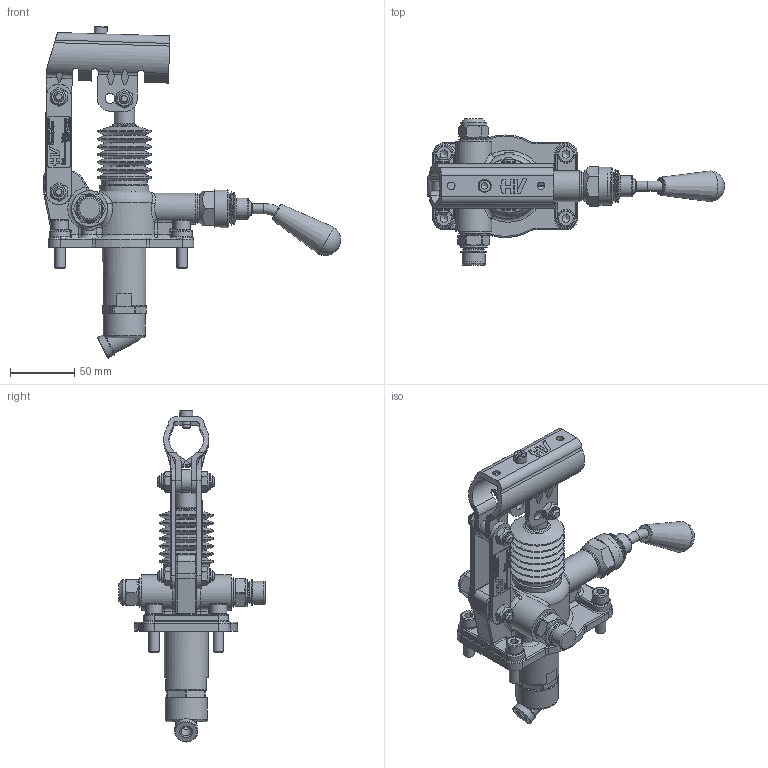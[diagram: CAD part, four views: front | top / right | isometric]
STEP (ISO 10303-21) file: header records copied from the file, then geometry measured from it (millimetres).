
FILE_DESCRIPTION((''),'2;1');
FILE_NAME('G:\HV_HYDRAULIC\AZIENDA_HV_HYDRAULIC\ARCHIVIO_DISEGNI\5_PRODOTTI_FINITI\1_POMPE_MANUALI\6049_PM_6\6049.0121_PM_6_byB-m-s_(HV)\6049.0121.stp','2024-02-27T15:32:47',('christian.scardovi'),(''),'Autodesk Inventor 2013','Autodesk Inventor 2013','');
FILE_SCHEMA(('AUTOMOTIVE_DESIGN { 1 0 10303 214 1 1 1 1 }'));
Length unit declared in the file: millimetre
Products named in the file (1): 6049.0121
Bounding box: 231.43 x 114 x 258.54 mm (x, y, z)
Volume: 2681.3 mm3; surface area: 145616.8 mm2
Topology: 28 solids, 29 shells, 1654 faces, 4055 edges, 2547 vertices
Faces by surface type: plane 759, cylinder 341, cone 200, bspline 192, torus 145, sphere 17
Full cylindrical faces by diameter (mm): 3 x2, 5 x5, 5.5 x1, 6 x4, 6.5 x2, 8 x29, 8.5 x4, 9 x4, 9.2 x1, 10 x6, 11.05 x6, 12 x5, 13 x4, 13.2 x1, 13.468 x1, 14 x4, 14.95 x3, 15 x6, 15.5 x1, 16 x4, 16.468 x1, 16.6 x4, 17 x3, 18 x6, 18.1 x1, 19.7 x1, 20 x4, 21 x2, 22 x2, 22.4 x2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
Entity records: 50297 total; most frequent: CARTESIAN_POINT 12826, ORIENTED_EDGE 7100, DIRECTION 6939, EDGE_CURVE 3550, AXIS2_PLACEMENT_3D 2561, VERTEX_POINT 2429, EDGE_LOOP 2208, VECTOR 1817
